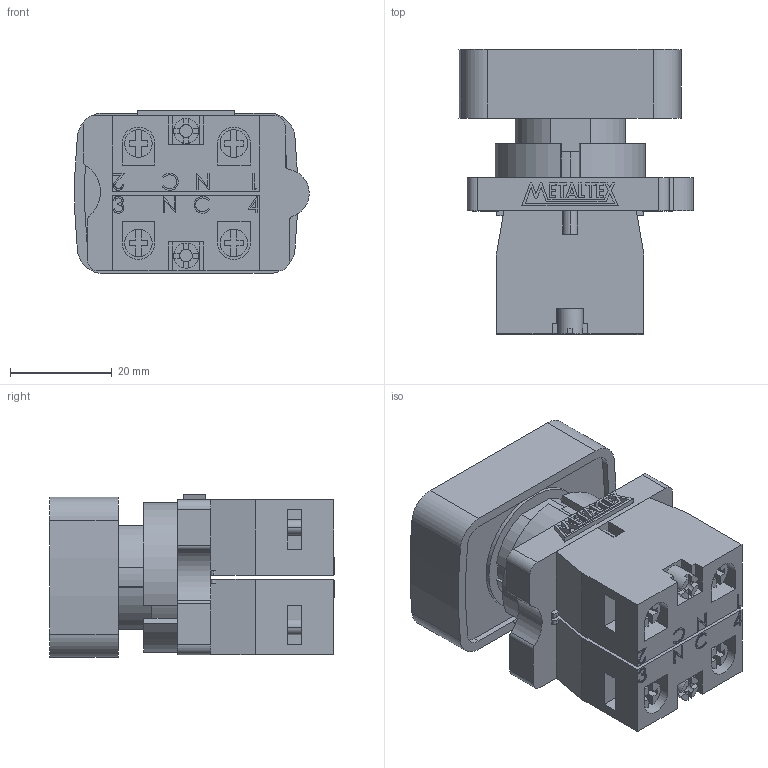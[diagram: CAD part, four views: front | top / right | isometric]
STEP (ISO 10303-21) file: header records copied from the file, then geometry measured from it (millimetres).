
FILE_DESCRIPTION (( 'STEP AP203' ), '1' );
FILE_NAME ('P20APL-1C.STEP', '2018-01-17T13:46:45', ( '' ), ( '' ), 'SwSTEP 2.0', 'SolidWorks 2012', '' );
FILE_SCHEMA (( 'CONFIG_CONTROL_DESIGN' ));
Length unit declared in the file: millimetre
Products named in the file (5): P20APL; M20-1B; P20APL-1C; METALTEX 18,98; M20-1A
Assembly tree (4 placements, depth 2):
  P20APL-1C
    P20APL
    M20-1B
    M20-1A
    METALTEX 18,98
Bounding box: 46.07 x 56 x 32 mm (x, y, z)
Volume: 49091.7 mm3; surface area: 25754.5 mm2
Topology: 11 solids, 11 shells, 593 faces, 1559 edges, 1034 vertices
Faces by surface type: plane 411, cylinder 127, bspline 47, torus 8
Entity records: 21430 total; most frequent: CARTESIAN_POINT 6224, ORIENTED_EDGE 3118, DIRECTION 2897, EDGE_CURVE 1559, LINE 1139, VECTOR 1139, VERTEX_POINT 1034, AXIS2_PLACEMENT_3D 879
